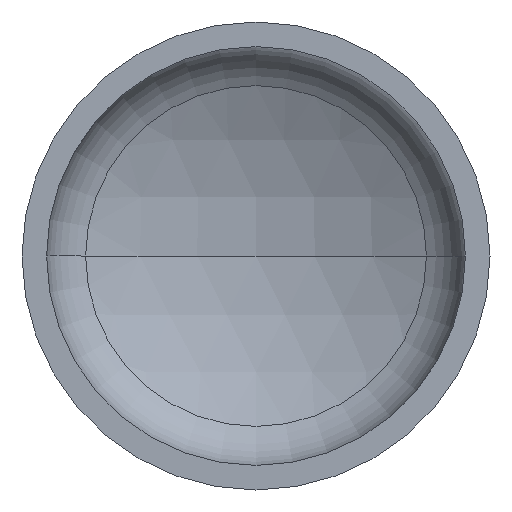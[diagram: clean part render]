
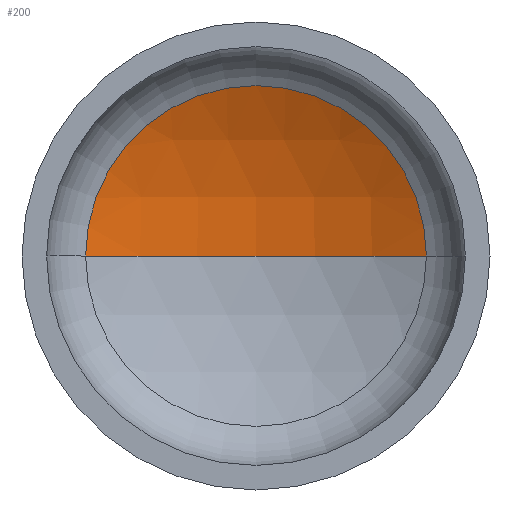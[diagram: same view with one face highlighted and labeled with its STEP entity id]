
A CAD part, front view. The second image highlights one B-rep face of the part: STEP entity #200.
In plain terms, the highlighted spherical face has radius 1280 mm.
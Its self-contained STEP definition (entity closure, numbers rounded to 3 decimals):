
#11 = AXIS2_PLACEMENT_3D ( 'NONE', #87, #270, #152 ) ;
#12 = AXIS2_PLACEMENT_3D ( 'NONE', #303, #127, #331 ) ;
#15 = AXIS2_PLACEMENT_3D ( 'NONE', #135, #297, #144 ) ;
#18 = DIRECTION ( 'NONE',  ( -1., 0., 0. ) ) ;
#25 = AXIS2_PLACEMENT_3D ( 'NONE', #86, #31, #18 ) ;
#30 = EDGE_LOOP ( 'NONE', ( #47, #90, #79 ) ) ;
#31 = DIRECTION ( 'NONE',  ( 0., 0., -1. ) ) ;
#47 = ORIENTED_EDGE ( 'NONE', *, *, #358, .F. ) ;
#79 = ORIENTED_EDGE ( 'NONE', *, *, #353, .T. ) ;
#86 = CARTESIAN_POINT ( 'NONE',  ( 0., -821.62, 0. ) ) ;
#87 = CARTESIAN_POINT ( 'NONE',  ( 0., -821.62, 0. ) ) ;
#90 = ORIENTED_EDGE ( 'NONE', *, *, #355, .T. ) ;
#119 = VERTEX_POINT ( 'NONE', #198 ) ;
#122 = CARTESIAN_POINT ( 'NONE',  ( 582.493, 318.161, 0. ) ) ;
#123 = CARTESIAN_POINT ( 'NONE',  ( 0., 458.38, 0. ) ) ;
#127 = DIRECTION ( 'NONE',  ( 0., 0., -1. ) ) ;
#135 = CARTESIAN_POINT ( 'NONE',  ( 0., 318.161, 0. ) ) ;
#144 = DIRECTION ( 'NONE',  ( 1., 0., 0. ) ) ;
#146 = FACE_OUTER_BOUND ( 'NONE', #30, .T. ) ;
#152 = DIRECTION ( 'NONE',  ( 1., 0., 0. ) ) ;
#155 = VERTEX_POINT ( 'NONE', #123 ) ;
#198 = CARTESIAN_POINT ( 'NONE',  ( -582.493, 318.161, 0. ) ) ;
#200 = ADVANCED_FACE ( 'NONE', ( #146 ), #367, .F. ) ;
#209 = CIRCLE ( 'NONE', #11, 1280. ) ;
#270 = DIRECTION ( 'NONE',  ( 0., 0., 1. ) ) ;
#276 = CIRCLE ( 'NONE', #15, 582.493 ) ;
#283 = CIRCLE ( 'NONE', #12, 1280. ) ;
#297 = DIRECTION ( 'NONE',  ( 0., -1., 0. ) ) ;
#303 = CARTESIAN_POINT ( 'NONE',  ( 0., -821.62, 0. ) ) ;
#331 = DIRECTION ( 'NONE',  ( -1., 0., 0. ) ) ;
#353 = EDGE_CURVE ( 'NONE', #395, #119, #276, .T. ) ;
#355 = EDGE_CURVE ( 'NONE', #155, #395, #283, .T. ) ;
#358 = EDGE_CURVE ( 'NONE', #155, #119, #209, .T. ) ;
#367 = SPHERICAL_SURFACE ( 'NONE', #25, 1280. ) ;
#395 = VERTEX_POINT ( 'NONE', #122 ) ;
